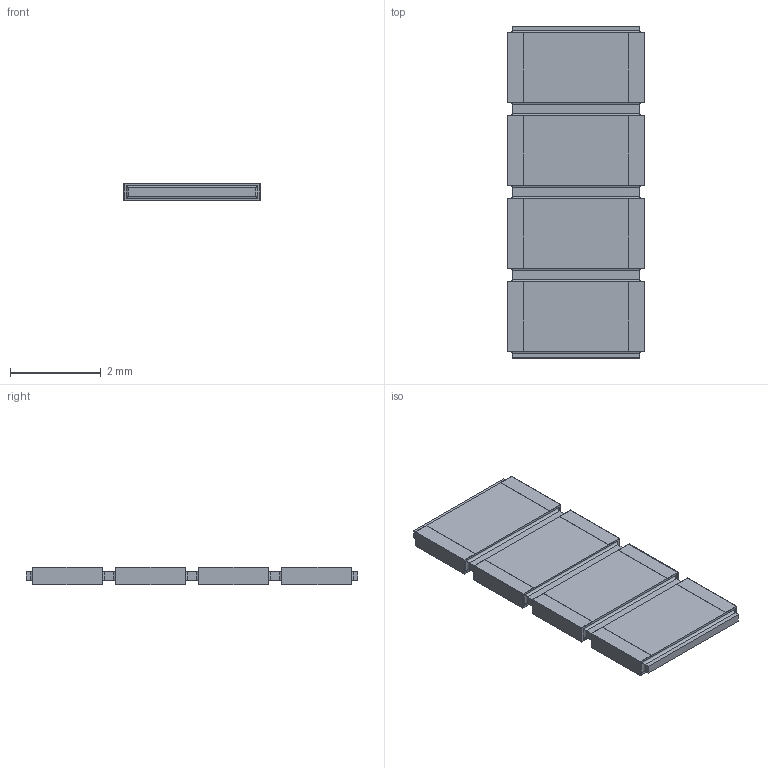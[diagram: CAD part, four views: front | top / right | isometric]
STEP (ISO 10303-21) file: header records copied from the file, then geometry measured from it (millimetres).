
FILE_DESCRIPTION(/* description */ (''),/* implementation_level */ '2;1');
FILE_NAME(/* name */ 'S:\DOCUMENT\AUTOCAD\3D_Modèles\10_3D-pour-VISHAY-COM\PRA\PRAHR182I4_B.stp',/* time_stamp */ '2018-02-02T10:52:41+01:00',/* author */ ('dparmentier'),/* organization */ ('unknown'),/* preprocessor_version */ 'ST-DEVELOPER v17',/* originating_system */ 'Autodesk Inventor 2018',/* authorisation */ '');
FILE_SCHEMA (('AUTOMOTIVE_DESIGN { 1 0 10303 214 3 1 1 }'));
Length unit declared in the file: millimetre
Products named in the file (1): PRAHR182I4_B
Bounding box: 3 x 7.3 x 0.38 mm (x, y, z)
Volume: 7.4 mm3; surface area: 78.8 mm2
Topology: 9 solids, 9 shells, 158 faces, 364 edges, 232 vertices
Faces by surface type: plane 126, cylinder 32
Entity records: 4409 total; most frequent: CARTESIAN_POINT 755, ORIENTED_EDGE 728, DIRECTION 714, EDGE_CURVE 364, LINE 332, VECTOR 332, VERTEX_POINT 232, AXIS2_PLACEMENT_3D 191
